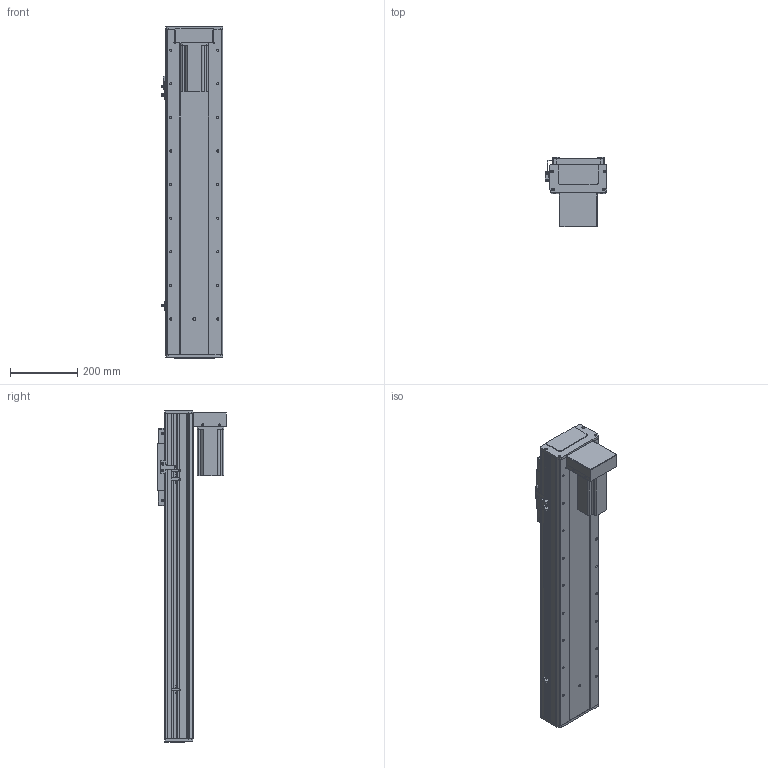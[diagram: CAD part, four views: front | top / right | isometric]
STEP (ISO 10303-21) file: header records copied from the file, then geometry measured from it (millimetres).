
FILE_DESCRIPTION (( 'STEP AP203' ), '1' );
FILE_NAME ('RY170F-L2010-300-BK.SLDASM_650.step', '2021-03-02T08:55:56', ( '盈信电脑' ), ( '东莞市道滘镇水果街19号' ), 'SwSTEP 2.0', 'SolidWorks 2012', '' );
FILE_SCHEMA (( 'CONFIG_CONTROL_DESIGN' ));
Length unit declared in the file: millimetre
Products named in the file (20): RY170F-綴裔啣; RY170F俋离覜茼え; 覜茼ん672; RY100F-詩湍揤踡謫; RY170狟殏詩湍假蚾輸; RY170F-L2010-300-BK.SLDASM_650; RY170F狟殏萇儂欶; 怢湛750W萇儂ㄗ80遺ㄘ; 侐源滅袉蝶; 滅袉蝶18-24; RY170F-狟殏萇儂假蚾啣(750W); RY170F-詩湍揤踡輸; RY170F-揤踡謫假蚾粣; 滅袉蝶18-10; RY170F-丝杆铝滑块连接板; RY170F-佪裝臏賑輸20蹟譫; RY170F-300眻蟀倰第菁釱-BK_650; RY170F-滅鳥奻裔; RY170F-300眻蟀倰第奻裔啣-BK_650; RY170F-300眻蟀祥凄詩湍-MK_650
Assembly tree (25 placements, depth 2):
  RY170F-L2010-300-BK.SLDASM_650
    RY170F-300眻蟀祥凄詩湍-MK_650
    RY170F-300眻蟀倰第奻裔啣-BK_650  x2
    RY170F-滅鳥奻裔
    RY170F-300眻蟀倰第菁釱-BK_650
    RY170F-佪裝臏賑輸20蹟譫
    RY170F-丝杆铝滑块连接板
    滅袉蝶18-10
    RY100F-詩湍揤踡謫
    RY170F-綴裔啣  x2
    覜茼ん672  x3
    RY170F俋离覜茼え
    RY170F-揤踡謫假蚾粣
    RY170F-詩湍揤踡輸  x2
    滅袉蝶18-24
    侐源滅袉蝶  x2
    RY170F-狟殏萇儂假蚾啣(750W)
    怢湛750W萇儂ㄗ80遺ㄘ
    RY170F狟殏萇儂欶
    RY170狟殏詩湍假蚾輸
Bounding box: 183.7 x 208 x 988 mm (x, y, z)
Volume: 6068683.5 mm3; surface area: 1956160.8 mm2
Topology: 25 solids, 25 shells, 1838 faces, 5085 edges, 3230 vertices
Faces by surface type: cylinder 872, plane 762, cone 200, bspline 4
Entity records: 51340 total; most frequent: CARTESIAN_POINT 10250, DIRECTION 8326, ORIENTED_EDGE 7926, EDGE_CURVE 3963, AXIS2_PLACEMENT_3D 3002, VERTEX_POINT 2586, VECTOR 2322, LINE 2322
